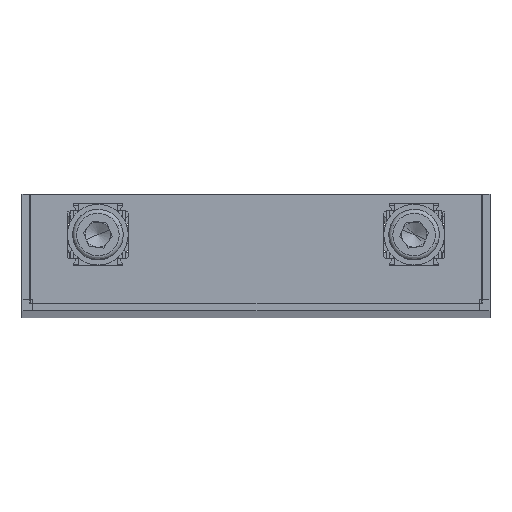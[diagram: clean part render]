
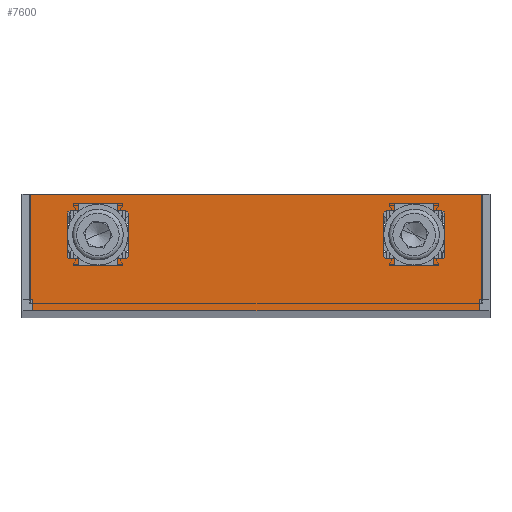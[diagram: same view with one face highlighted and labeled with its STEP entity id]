
A CAD part, top view. The second image highlights one B-rep face of the part: STEP entity #7600.
In plain terms, the highlighted planar face has unit normal (0, 0, 1).
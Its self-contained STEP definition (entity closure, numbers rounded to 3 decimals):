
#7142 = VERTEX_POINT('',#7143);
#7143 = CARTESIAN_POINT('',(-44.15,-1.5,407.));
#7222 = VERTEX_POINT('',#7223);
#7223 = CARTESIAN_POINT('',(44.15,-1.5,407.));
#7229 = EDGE_CURVE('',#7142,#7222,#7230,.T.);
#7230 = LINE('',#7231,#7232);
#7231 = CARTESIAN_POINT('',(-44.75,-1.5,407.));
#7232 = VECTOR('',#7233,1.);
#7233 = DIRECTION('',(1.,0.,0.));
#7246 = VERTEX_POINT('',#7247);
#7247 = CARTESIAN_POINT('',(44.15,0.6,407.));
#7253 = EDGE_CURVE('',#7246,#7222,#7254,.T.);
#7254 = LINE('',#7255,#7256);
#7255 = CARTESIAN_POINT('',(44.15,0.,407.));
#7256 = VECTOR('',#7257,1.);
#7257 = DIRECTION('',(-0.,-1.,-0.));
#7288 = EDGE_CURVE('',#7289,#7142,#7291,.T.);
#7289 = VERTEX_POINT('',#7290);
#7290 = CARTESIAN_POINT('',(-44.15,0.6,407.));
#7291 = LINE('',#7292,#7293);
#7292 = CARTESIAN_POINT('',(-44.15,0.6,407.));
#7293 = VECTOR('',#7294,1.);
#7294 = DIRECTION('',(-0.,-1.,-0.));
#7319 = EDGE_CURVE('',#7320,#7322,#7324,.T.);
#7320 = VERTEX_POINT('',#7321);
#7321 = CARTESIAN_POINT('',(-44.65,0.6,407.));
#7322 = VERTEX_POINT('',#7323);
#7323 = CARTESIAN_POINT('',(-44.65,21.5,407.));
#7324 = LINE('',#7325,#7326);
#7325 = CARTESIAN_POINT('',(-44.65,0.6,407.));
#7326 = VECTOR('',#7327,1.);
#7327 = DIRECTION('',(0.,1.,0.));
#7359 = EDGE_CURVE('',#7360,#7362,#7364,.T.);
#7360 = VERTEX_POINT('',#7361);
#7361 = CARTESIAN_POINT('',(44.65,0.6,407.));
#7362 = VERTEX_POINT('',#7363);
#7363 = CARTESIAN_POINT('',(44.65,21.5,407.));
#7364 = LINE('',#7365,#7366);
#7365 = CARTESIAN_POINT('',(44.65,0.6,407.));
#7366 = VECTOR('',#7367,1.);
#7367 = DIRECTION('',(0.,1.,0.));
#7406 = EDGE_CURVE('',#7362,#7322,#7407,.T.);
#7407 = LINE('',#7408,#7409);
#7408 = CARTESIAN_POINT('',(0.,21.5,407.));
#7409 = VECTOR('',#7410,1.);
#7410 = DIRECTION('',(-1.,0.,0.));
#7587 = EDGE_CURVE('',#7289,#7320,#7588,.T.);
#7588 = LINE('',#7589,#7590);
#7589 = CARTESIAN_POINT('',(-44.15,0.6,407.));
#7590 = VECTOR('',#7591,1.);
#7591 = DIRECTION('',(-1.,0.,0.));
#7600 = ADVANCED_FACE('',(#7601,#7671,#7741),#7756,.F.);
#7601 = FACE_BOUND('',#7602,.T.);
#7602 = EDGE_LOOP('',(#7603,#7613,#7622,#7630,#7639,#7647,#7656,#7664));
#7603 = ORIENTED_EDGE('',*,*,#7604,.F.);
#7604 = EDGE_CURVE('',#7605,#7607,#7609,.T.);
#7605 = VERTEX_POINT('',#7606);
#7606 = CARTESIAN_POINT('',(-36.75,8.75,407.));
#7607 = VERTEX_POINT('',#7608);
#7608 = CARTESIAN_POINT('',(-25.75,8.75,407.));
#7609 = LINE('',#7610,#7611);
#7610 = CARTESIAN_POINT('',(-27.,8.75,407.));
#7611 = VECTOR('',#7612,1.);
#7612 = DIRECTION('',(1.,-0.,-0.));
#7613 = ORIENTED_EDGE('',*,*,#7614,.F.);
#7614 = EDGE_CURVE('',#7615,#7605,#7617,.T.);
#7615 = VERTEX_POINT('',#7616);
#7616 = CARTESIAN_POINT('',(-37.25,9.25,407.));
#7617 = CIRCLE('',#7618,0.5);
#7618 = AXIS2_PLACEMENT_3D('',#7619,#7620,#7621);
#7619 = CARTESIAN_POINT('',(-36.75,9.25,407.));
#7620 = DIRECTION('',(0.,0.,1.));
#7621 = DIRECTION('',(-1.,0.,0.));
#7622 = ORIENTED_EDGE('',*,*,#7623,.F.);
#7623 = EDGE_CURVE('',#7624,#7615,#7626,.T.);
#7624 = VERTEX_POINT('',#7625);
#7625 = CARTESIAN_POINT('',(-37.25,17.75,407.));
#7626 = LINE('',#7627,#7628);
#7627 = CARTESIAN_POINT('',(-37.25,9.25,407.));
#7628 = VECTOR('',#7629,1.);
#7629 = DIRECTION('',(0.,-1.,-0.));
#7630 = ORIENTED_EDGE('',*,*,#7631,.F.);
#7631 = EDGE_CURVE('',#7632,#7624,#7634,.T.);
#7632 = VERTEX_POINT('',#7633);
#7633 = CARTESIAN_POINT('',(-36.75,18.25,407.));
#7634 = CIRCLE('',#7635,0.5);
#7635 = AXIS2_PLACEMENT_3D('',#7636,#7637,#7638);
#7636 = CARTESIAN_POINT('',(-36.75,17.75,407.));
#7637 = DIRECTION('',(0.,0.,1.));
#7638 = DIRECTION('',(-1.,0.,0.));
#7639 = ORIENTED_EDGE('',*,*,#7640,.F.);
#7640 = EDGE_CURVE('',#7641,#7632,#7643,.T.);
#7641 = VERTEX_POINT('',#7642);
#7642 = CARTESIAN_POINT('',(-25.75,18.25,407.));
#7643 = LINE('',#7644,#7645);
#7644 = CARTESIAN_POINT('',(-27.,18.25,407.));
#7645 = VECTOR('',#7646,1.);
#7646 = DIRECTION('',(-1.,0.,0.));
#7647 = ORIENTED_EDGE('',*,*,#7648,.F.);
#7648 = EDGE_CURVE('',#7649,#7641,#7651,.T.);
#7649 = VERTEX_POINT('',#7650);
#7650 = CARTESIAN_POINT('',(-25.25,17.75,407.));
#7651 = CIRCLE('',#7652,0.5);
#7652 = AXIS2_PLACEMENT_3D('',#7653,#7654,#7655);
#7653 = CARTESIAN_POINT('',(-25.75,17.75,407.));
#7654 = DIRECTION('',(0.,0.,1.));
#7655 = DIRECTION('',(-1.,0.,0.));
#7656 = ORIENTED_EDGE('',*,*,#7657,.F.);
#7657 = EDGE_CURVE('',#7658,#7649,#7660,.T.);
#7658 = VERTEX_POINT('',#7659);
#7659 = CARTESIAN_POINT('',(-25.25,9.25,407.));
#7660 = LINE('',#7661,#7662);
#7661 = CARTESIAN_POINT('',(-25.25,17.75,407.));
#7662 = VECTOR('',#7663,1.);
#7663 = DIRECTION('',(0.,1.,-0.));
#7664 = ORIENTED_EDGE('',*,*,#7665,.F.);
#7665 = EDGE_CURVE('',#7607,#7658,#7666,.T.);
#7666 = CIRCLE('',#7667,0.5);
#7667 = AXIS2_PLACEMENT_3D('',#7668,#7669,#7670);
#7668 = CARTESIAN_POINT('',(-25.75,9.25,407.));
#7669 = DIRECTION('',(0.,0.,1.));
#7670 = DIRECTION('',(-1.,0.,0.));
#7671 = FACE_BOUND('',#7672,.T.);
#7672 = EDGE_LOOP('',(#7673,#7683,#7692,#7700,#7709,#7717,#7726,#7734));
#7673 = ORIENTED_EDGE('',*,*,#7674,.F.);
#7674 = EDGE_CURVE('',#7675,#7677,#7679,.T.);
#7675 = VERTEX_POINT('',#7676);
#7676 = CARTESIAN_POINT('',(25.75,8.75,407.));
#7677 = VERTEX_POINT('',#7678);
#7678 = CARTESIAN_POINT('',(36.75,8.75,407.));
#7679 = LINE('',#7680,#7681);
#7680 = CARTESIAN_POINT('',(27.,8.75,407.));
#7681 = VECTOR('',#7682,1.);
#7682 = DIRECTION('',(1.,0.,0.));
#7683 = ORIENTED_EDGE('',*,*,#7684,.F.);
#7684 = EDGE_CURVE('',#7685,#7675,#7687,.T.);
#7685 = VERTEX_POINT('',#7686);
#7686 = CARTESIAN_POINT('',(25.25,9.25,407.));
#7687 = CIRCLE('',#7688,0.5);
#7688 = AXIS2_PLACEMENT_3D('',#7689,#7690,#7691);
#7689 = CARTESIAN_POINT('',(25.75,9.25,407.));
#7690 = DIRECTION('',(0.,0.,1.));
#7691 = DIRECTION('',(1.,0.,-0.));
#7692 = ORIENTED_EDGE('',*,*,#7693,.F.);
#7693 = EDGE_CURVE('',#7694,#7685,#7696,.T.);
#7694 = VERTEX_POINT('',#7695);
#7695 = CARTESIAN_POINT('',(25.25,17.75,407.));
#7696 = LINE('',#7697,#7698);
#7697 = CARTESIAN_POINT('',(25.25,17.75,407.));
#7698 = VECTOR('',#7699,1.);
#7699 = DIRECTION('',(0.,-1.,0.));
#7700 = ORIENTED_EDGE('',*,*,#7701,.F.);
#7701 = EDGE_CURVE('',#7702,#7694,#7704,.T.);
#7702 = VERTEX_POINT('',#7703);
#7703 = CARTESIAN_POINT('',(25.75,18.25,407.));
#7704 = CIRCLE('',#7705,0.5);
#7705 = AXIS2_PLACEMENT_3D('',#7706,#7707,#7708);
#7706 = CARTESIAN_POINT('',(25.75,17.75,407.));
#7707 = DIRECTION('',(0.,0.,1.));
#7708 = DIRECTION('',(1.,0.,-0.));
#7709 = ORIENTED_EDGE('',*,*,#7710,.F.);
#7710 = EDGE_CURVE('',#7711,#7702,#7713,.T.);
#7711 = VERTEX_POINT('',#7712);
#7712 = CARTESIAN_POINT('',(36.75,18.25,407.));
#7713 = LINE('',#7714,#7715);
#7714 = CARTESIAN_POINT('',(27.,18.25,407.));
#7715 = VECTOR('',#7716,1.);
#7716 = DIRECTION('',(-1.,0.,-0.));
#7717 = ORIENTED_EDGE('',*,*,#7718,.F.);
#7718 = EDGE_CURVE('',#7719,#7711,#7721,.T.);
#7719 = VERTEX_POINT('',#7720);
#7720 = CARTESIAN_POINT('',(37.25,17.75,407.));
#7721 = CIRCLE('',#7722,0.5);
#7722 = AXIS2_PLACEMENT_3D('',#7723,#7724,#7725);
#7723 = CARTESIAN_POINT('',(36.75,17.75,407.));
#7724 = DIRECTION('',(0.,0.,1.));
#7725 = DIRECTION('',(1.,0.,-0.));
#7726 = ORIENTED_EDGE('',*,*,#7727,.F.);
#7727 = EDGE_CURVE('',#7728,#7719,#7730,.T.);
#7728 = VERTEX_POINT('',#7729);
#7729 = CARTESIAN_POINT('',(37.25,9.25,407.));
#7730 = LINE('',#7731,#7732);
#7731 = CARTESIAN_POINT('',(37.25,9.25,407.));
#7732 = VECTOR('',#7733,1.);
#7733 = DIRECTION('',(0.,1.,0.));
#7734 = ORIENTED_EDGE('',*,*,#7735,.F.);
#7735 = EDGE_CURVE('',#7677,#7728,#7736,.T.);
#7736 = CIRCLE('',#7737,0.5);
#7737 = AXIS2_PLACEMENT_3D('',#7738,#7739,#7740);
#7738 = CARTESIAN_POINT('',(36.75,9.25,407.));
#7739 = DIRECTION('',(0.,0.,1.));
#7740 = DIRECTION('',(1.,0.,-0.));
#7741 = FACE_BOUND('',#7742,.T.);
#7742 = EDGE_LOOP('',(#7743,#7744,#7745,#7746,#7747,#7753,#7754,#7755));
#7743 = ORIENTED_EDGE('',*,*,#7587,.F.);
#7744 = ORIENTED_EDGE('',*,*,#7288,.T.);
#7745 = ORIENTED_EDGE('',*,*,#7229,.T.);
#7746 = ORIENTED_EDGE('',*,*,#7253,.F.);
#7747 = ORIENTED_EDGE('',*,*,#7748,.T.);
#7748 = EDGE_CURVE('',#7246,#7360,#7749,.T.);
#7749 = LINE('',#7750,#7751);
#7750 = CARTESIAN_POINT('',(44.15,0.6,407.));
#7751 = VECTOR('',#7752,1.);
#7752 = DIRECTION('',(1.,0.,0.));
#7753 = ORIENTED_EDGE('',*,*,#7359,.T.);
#7754 = ORIENTED_EDGE('',*,*,#7406,.T.);
#7755 = ORIENTED_EDGE('',*,*,#7319,.F.);
#7756 = PLANE('',#7757);
#7757 = AXIS2_PLACEMENT_3D('',#7758,#7759,#7760);
#7758 = CARTESIAN_POINT('',(0.,0.,407.)
  );
#7759 = DIRECTION('',(0.,0.,-1.));
#7760 = DIRECTION('',(-1.,0.,0.));
